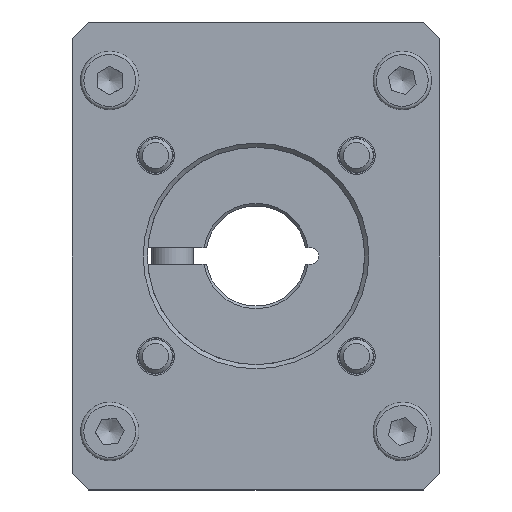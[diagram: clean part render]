
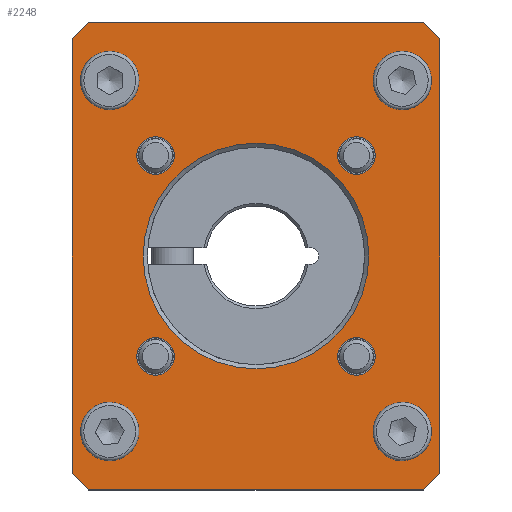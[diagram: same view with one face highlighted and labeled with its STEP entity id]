
A CAD part, left-side view. The second image highlights one B-rep face of the part: STEP entity #2248.
In plain terms, the highlighted planar face has unit normal (-1, 0, 0) as drawn and (0, 0, 1) by its records, which use the part's own axes.
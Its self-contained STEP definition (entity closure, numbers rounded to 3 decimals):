
#152=FACE_BOUND('',#394,.T.);
#153=FACE_BOUND('',#395,.T.);
#154=FACE_BOUND('',#396,.T.);
#155=FACE_BOUND('',#397,.T.);
#156=FACE_BOUND('',#398,.T.);
#157=FACE_BOUND('',#399,.T.);
#158=FACE_BOUND('',#400,.T.);
#159=FACE_BOUND('',#401,.T.);
#160=FACE_BOUND('',#402,.T.);
#185=PLANE('',#2567);
#268=FACE_OUTER_BOUND('',#393,.T.);
#393=EDGE_LOOP('',(#1711,#1712,#1713,#1714,#1715,#1716,#1717,#1718));
#394=EDGE_LOOP('',(#1719));
#395=EDGE_LOOP('',(#1720));
#396=EDGE_LOOP('',(#1721));
#397=EDGE_LOOP('',(#1722));
#398=EDGE_LOOP('',(#1723,#1724));
#399=EDGE_LOOP('',(#1725,#1726));
#400=EDGE_LOOP('',(#1727,#1728));
#401=EDGE_LOOP('',(#1729,#1730));
#402=EDGE_LOOP('',(#1731));
#546=LINE('',#3832,#683);
#547=LINE('',#3834,#684);
#548=LINE('',#3836,#685);
#549=LINE('',#3838,#686);
#550=LINE('',#3840,#687);
#551=LINE('',#3842,#688);
#552=LINE('',#3844,#689);
#553=LINE('',#3845,#690);
#683=VECTOR('',#3008,10.);
#684=VECTOR('',#3009,10.);
#685=VECTOR('',#3010,10.);
#686=VECTOR('',#3011,10.);
#687=VECTOR('',#3012,10.);
#688=VECTOR('',#3013,10.);
#689=VECTOR('',#3014,10.);
#690=VECTOR('',#3015,10.);
#834=CIRCLE('',#2562,13.5);
#838=CIRCLE('',#2568,2.25);
#839=CIRCLE('',#2569,2.25);
#840=CIRCLE('',#2570,2.25);
#841=CIRCLE('',#2571,2.25);
#842=CIRCLE('',#2572,2.25);
#843=CIRCLE('',#2573,2.25);
#844=CIRCLE('',#2574,2.25);
#845=CIRCLE('',#2575,2.25);
#846=CIRCLE('',#2576,2.25);
#847=CIRCLE('',#2577,2.25);
#848=CIRCLE('',#2578,2.25);
#849=CIRCLE('',#2579,2.25);
#1010=VERTEX_POINT('',#3818);
#1014=VERTEX_POINT('',#3830);
#1015=VERTEX_POINT('',#3831);
#1016=VERTEX_POINT('',#3833);
#1017=VERTEX_POINT('',#3835);
#1018=VERTEX_POINT('',#3837);
#1019=VERTEX_POINT('',#3839);
#1020=VERTEX_POINT('',#3841);
#1021=VERTEX_POINT('',#3843);
#1022=VERTEX_POINT('',#3846);
#1023=VERTEX_POINT('',#3848);
#1024=VERTEX_POINT('',#3850);
#1025=VERTEX_POINT('',#3852);
#1026=VERTEX_POINT('',#3854);
#1027=VERTEX_POINT('',#3855);
#1028=VERTEX_POINT('',#3858);
#1029=VERTEX_POINT('',#3859);
#1030=VERTEX_POINT('',#3862);
#1031=VERTEX_POINT('',#3863);
#1032=VERTEX_POINT('',#3866);
#1033=VERTEX_POINT('',#3867);
#1280=EDGE_CURVE('',#1010,#1010,#834,.T.);
#1286=EDGE_CURVE('',#1014,#1015,#546,.T.);
#1287=EDGE_CURVE('',#1014,#1016,#547,.T.);
#1288=EDGE_CURVE('',#1017,#1016,#548,.T.);
#1289=EDGE_CURVE('',#1017,#1018,#549,.T.);
#1290=EDGE_CURVE('',#1019,#1018,#550,.T.);
#1291=EDGE_CURVE('',#1019,#1020,#551,.T.);
#1292=EDGE_CURVE('',#1021,#1020,#552,.T.);
#1293=EDGE_CURVE('',#1021,#1015,#553,.T.);
#1294=EDGE_CURVE('',#1022,#1022,#838,.T.);
#1295=EDGE_CURVE('',#1023,#1023,#839,.T.);
#1296=EDGE_CURVE('',#1024,#1024,#840,.T.);
#1297=EDGE_CURVE('',#1025,#1025,#841,.T.);
#1298=EDGE_CURVE('',#1026,#1027,#842,.T.);
#1299=EDGE_CURVE('',#1027,#1026,#843,.T.);
#1300=EDGE_CURVE('',#1028,#1029,#844,.T.);
#1301=EDGE_CURVE('',#1029,#1028,#845,.T.);
#1302=EDGE_CURVE('',#1030,#1031,#846,.T.);
#1303=EDGE_CURVE('',#1031,#1030,#847,.T.);
#1304=EDGE_CURVE('',#1032,#1033,#848,.T.);
#1305=EDGE_CURVE('',#1033,#1032,#849,.T.);
#1711=ORIENTED_EDGE('',*,*,#1286,.F.);
#1712=ORIENTED_EDGE('',*,*,#1287,.T.);
#1713=ORIENTED_EDGE('',*,*,#1288,.F.);
#1714=ORIENTED_EDGE('',*,*,#1289,.T.);
#1715=ORIENTED_EDGE('',*,*,#1290,.F.);
#1716=ORIENTED_EDGE('',*,*,#1291,.T.);
#1717=ORIENTED_EDGE('',*,*,#1292,.F.);
#1718=ORIENTED_EDGE('',*,*,#1293,.T.);
#1719=ORIENTED_EDGE('',*,*,#1294,.T.);
#1720=ORIENTED_EDGE('',*,*,#1295,.T.);
#1721=ORIENTED_EDGE('',*,*,#1296,.T.);
#1722=ORIENTED_EDGE('',*,*,#1297,.T.);
#1723=ORIENTED_EDGE('',*,*,#1298,.T.);
#1724=ORIENTED_EDGE('',*,*,#1299,.T.);
#1725=ORIENTED_EDGE('',*,*,#1300,.T.);
#1726=ORIENTED_EDGE('',*,*,#1301,.T.);
#1727=ORIENTED_EDGE('',*,*,#1302,.T.);
#1728=ORIENTED_EDGE('',*,*,#1303,.T.);
#1729=ORIENTED_EDGE('',*,*,#1304,.T.);
#1730=ORIENTED_EDGE('',*,*,#1305,.T.);
#1731=ORIENTED_EDGE('',*,*,#1280,.F.);
#2248=ADVANCED_FACE('',(#268,#152,#153,#154,#155,#156,#157,#158,#159,#160),
#185,.T.);
#2562=AXIS2_PLACEMENT_3D('',#3819,#2994,#2995);
#2567=AXIS2_PLACEMENT_3D('',#3829,#3006,#3007);
#2568=AXIS2_PLACEMENT_3D('',#3847,#3016,#3017);
#2569=AXIS2_PLACEMENT_3D('',#3849,#3018,#3019);
#2570=AXIS2_PLACEMENT_3D('',#3851,#3020,#3021);
#2571=AXIS2_PLACEMENT_3D('',#3853,#3022,#3023);
#2572=AXIS2_PLACEMENT_3D('',#3856,#3024,#3025);
#2573=AXIS2_PLACEMENT_3D('',#3857,#3026,#3027);
#2574=AXIS2_PLACEMENT_3D('',#3860,#3028,#3029);
#2575=AXIS2_PLACEMENT_3D('',#3861,#3030,#3031);
#2576=AXIS2_PLACEMENT_3D('',#3864,#3032,#3033);
#2577=AXIS2_PLACEMENT_3D('',#3865,#3034,#3035);
#2578=AXIS2_PLACEMENT_3D('',#3868,#3036,#3037);
#2579=AXIS2_PLACEMENT_3D('',#3869,#3038,#3039);
#2994=DIRECTION('center_axis',(0.,0.,1.));
#2995=DIRECTION('ref_axis',(1.,0.,0.));
#3006=DIRECTION('center_axis',(0.,0.,1.));
#3007=DIRECTION('ref_axis',(1.,0.,0.));
#3008=DIRECTION('',(0.707,0.707,0.));
#3009=DIRECTION('',(0.,-1.,0.));
#3010=DIRECTION('',(-0.707,0.707,0.));
#3011=DIRECTION('',(1.,0.,0.));
#3012=DIRECTION('',(-0.707,-0.707,0.));
#3013=DIRECTION('',(0.,1.,0.));
#3014=DIRECTION('',(0.707,-0.707,0.));
#3015=DIRECTION('',(-1.,0.,0.));
#3016=DIRECTION('center_axis',(0.,0.,-1.));
#3017=DIRECTION('ref_axis',(-1.,0.,0.));
#3018=DIRECTION('center_axis',(0.,0.,-1.));
#3019=DIRECTION('ref_axis',(-1.,0.,0.));
#3020=DIRECTION('center_axis',(0.,0.,-1.));
#3021=DIRECTION('ref_axis',(-1.,0.,0.));
#3022=DIRECTION('center_axis',(0.,0.,-1.));
#3023=DIRECTION('ref_axis',(-1.,0.,0.));
#3024=DIRECTION('center_axis',(0.,0.,-1.));
#3025=DIRECTION('ref_axis',(1.,0.,0.));
#3026=DIRECTION('center_axis',(0.,0.,-1.));
#3027=DIRECTION('ref_axis',(1.,0.,0.));
#3028=DIRECTION('center_axis',(0.,0.,-1.));
#3029=DIRECTION('ref_axis',(1.,0.,0.));
#3030=DIRECTION('center_axis',(0.,0.,-1.));
#3031=DIRECTION('ref_axis',(1.,0.,0.));
#3032=DIRECTION('center_axis',(0.,0.,-1.));
#3033=DIRECTION('ref_axis',(1.,0.,0.));
#3034=DIRECTION('center_axis',(0.,0.,-1.));
#3035=DIRECTION('ref_axis',(1.,0.,0.));
#3036=DIRECTION('center_axis',(0.,0.,-1.));
#3037=DIRECTION('ref_axis',(1.,0.,0.));
#3038=DIRECTION('center_axis',(0.,0.,-1.));
#3039=DIRECTION('ref_axis',(1.,0.,0.));
#3818=CARTESIAN_POINT('',(-13.5,0.,7.));
#3819=CARTESIAN_POINT('Origin',(0.,0.,7.));
#3829=CARTESIAN_POINT('Origin',(0.,0.,
7.));
#3830=CARTESIAN_POINT('',(-28.,20.,7.));
#3831=CARTESIAN_POINT('',(-26.,22.,7.));
#3832=CARTESIAN_POINT('',(-25.5,22.5,7.));
#3833=CARTESIAN_POINT('',(-28.,-20.,7.));
#3834=CARTESIAN_POINT('',(-28.,-22.,7.));
#3835=CARTESIAN_POINT('',(-26.,-22.,7.));
#3836=CARTESIAN_POINT('',(-25.5,-22.5,7.));
#3837=CARTESIAN_POINT('',(26.,-22.,7.));
#3838=CARTESIAN_POINT('',(28.,-22.,7.));
#3839=CARTESIAN_POINT('',(28.,-20.,7.));
#3840=CARTESIAN_POINT('',(25.5,-22.5,7.));
#3841=CARTESIAN_POINT('',(28.,20.,7.));
#3842=CARTESIAN_POINT('',(28.,22.,7.));
#3843=CARTESIAN_POINT('',(26.,22.,7.));
#3844=CARTESIAN_POINT('',(25.5,22.5,7.));
#3845=CARTESIAN_POINT('',(-28.,22.,7.));
#3846=CARTESIAN_POINT('',(-9.771,-12.021,7.));
#3847=CARTESIAN_POINT('Origin',(-12.021,-12.021,7.));
#3848=CARTESIAN_POINT('',(-9.771,12.021,7.));
#3849=CARTESIAN_POINT('Origin',(-12.021,12.021,7.));
#3850=CARTESIAN_POINT('',(14.271,12.021,7.));
#3851=CARTESIAN_POINT('Origin',(12.021,12.021,7.));
#3852=CARTESIAN_POINT('',(14.271,-12.021,7.));
#3853=CARTESIAN_POINT('Origin',(12.021,-12.021,7.));
#3854=CARTESIAN_POINT('',(-18.75,17.5,7.));
#3855=CARTESIAN_POINT('',(-23.25,17.5,7.));
#3856=CARTESIAN_POINT('Origin',(-21.,17.5,7.));
#3857=CARTESIAN_POINT('Origin',(-21.,17.5,7.));
#3858=CARTESIAN_POINT('',(23.25,-17.5,7.));
#3859=CARTESIAN_POINT('',(18.75,-17.5,7.));
#3860=CARTESIAN_POINT('Origin',(21.,-17.5,7.));
#3861=CARTESIAN_POINT('Origin',(21.,-17.5,7.));
#3862=CARTESIAN_POINT('',(23.25,17.5,7.));
#3863=CARTESIAN_POINT('',(18.75,17.5,7.));
#3864=CARTESIAN_POINT('Origin',(21.,17.5,7.));
#3865=CARTESIAN_POINT('Origin',(21.,17.5,7.));
#3866=CARTESIAN_POINT('',(-18.75,-17.5,7.));
#3867=CARTESIAN_POINT('',(-23.25,-17.5,7.));
#3868=CARTESIAN_POINT('Origin',(-21.,-17.5,7.));
#3869=CARTESIAN_POINT('Origin',(-21.,-17.5,7.));
